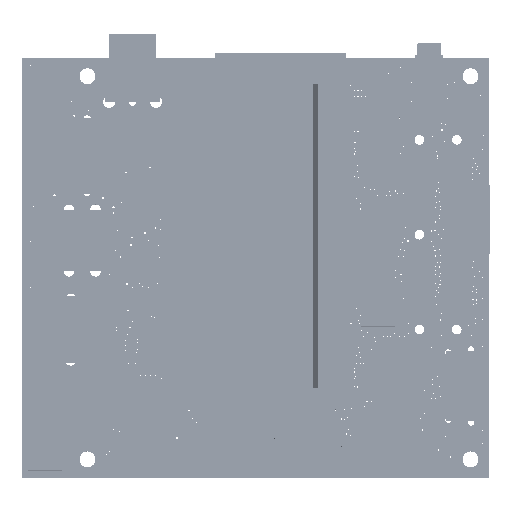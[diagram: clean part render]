
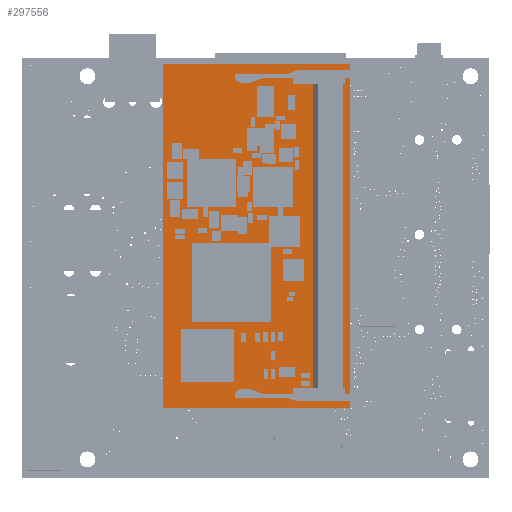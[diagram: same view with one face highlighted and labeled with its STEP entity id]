
A CAD part, top view. The second image highlights one B-rep face of the part: STEP entity #297556.
In plain terms, the highlighted planar face has unit normal (0, 0, 1).
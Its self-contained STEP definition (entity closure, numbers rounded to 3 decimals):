
#60196 = CARTESIAN_POINT ( 'NONE',  ( 30.226, 88.666, 5.575 ) ) ;
#61365 = CARTESIAN_POINT ( 'NONE',  ( 70.226, 88.666, 5.575 ) ) ;
#61682 = DIRECTION ( 'NONE',  ( -1., 0., 0. ) ) ;
#61684 = VECTOR ( 'NONE', #61682, 1000. ) ;
#61688 = CARTESIAN_POINT ( 'NONE',  ( 70.226, 88.666, 5.575 ) ) ;
#61690 = LINE ( 'NONE', #61688, #61684 ) ;
#62104 = DIRECTION ( 'NONE',  ( 0., -1., 0. ) ) ;
#62106 = VECTOR ( 'NONE', #62104, 1000. ) ;
#62107 = CARTESIAN_POINT ( 'NONE',  ( 30.226, 88.666, 5.575 ) ) ;
#62108 = LINE ( 'NONE', #62107, #62106 ) ;
#62411 = CARTESIAN_POINT ( 'NONE',  ( 70.226, 14.966, 5.575 ) ) ;
#62578 = CARTESIAN_POINT ( 'NONE',  ( 30.226, 14.966, 5.575 ) ) ;
#62629 = DIRECTION ( 'NONE',  ( 1., 0., 0. ) ) ;
#62631 = VECTOR ( 'NONE', #62629, 1000. ) ;
#62635 = CARTESIAN_POINT ( 'NONE',  ( 30.226, 14.966, 5.575 ) ) ;
#62639 = LINE ( 'NONE', #62635, #62631 ) ;
#62973 = DIRECTION ( 'NONE',  ( 0., 1., 0. ) ) ;
#62975 = VECTOR ( 'NONE', #62973, 1000. ) ;
#62976 = CARTESIAN_POINT ( 'NONE',  ( 70.226, 14.966, 5.575 ) ) ;
#63017 = LINE ( 'NONE', #62976, #62975 ) ;
#63159 = AXIS2_PLACEMENT_3D ( 'NONE', #63371, #63368, #63365 ) ;
#63365 = DIRECTION ( 'NONE',  ( 1., 0., 0. ) ) ;
#63368 = DIRECTION ( 'NONE',  ( 0., 0., 1. ) ) ;
#63371 = CARTESIAN_POINT ( 'NONE',  ( 30.226, 88.666, 5.575 ) ) ;
#63393 = PLANE ( 'NONE',  #63159 ) ;
#63401 = FACE_OUTER_BOUND ( 'NONE', #297424, .T. ) ;
#296701 = VERTEX_POINT ( 'NONE', #60196 ) ;
#297075 = VERTEX_POINT ( 'NONE', #61365 ) ;
#297133 = EDGE_CURVE ( 'NONE', #297075, #296701, #61690, .T. ) ;
#297248 = EDGE_CURVE ( 'NONE', #296701, #297289, #62108, .T. ) ;
#297267 = VERTEX_POINT ( 'NONE', #62411 ) ;
#297289 = VERTEX_POINT ( 'NONE', #62578 ) ;
#297368 = EDGE_CURVE ( 'NONE', #297289, #297267, #62639, .T. ) ;
#297424 = EDGE_LOOP ( 'NONE', ( #297788, #297675, #297572, #297988 ) ) ;
#297435 = EDGE_CURVE ( 'NONE', #297267, #297075, #63017, .T. ) ;
#297556 = ADVANCED_FACE ( 'NONE', ( #63401 ), #63393, .T. ) ;
#297572 = ORIENTED_EDGE ( 'NONE', *, *, #297368, .T. ) ;
#297675 = ORIENTED_EDGE ( 'NONE', *, *, #297248, .T. ) ;
#297788 = ORIENTED_EDGE ( 'NONE', *, *, #297133, .T. ) ;
#297988 = ORIENTED_EDGE ( 'NONE', *, *, #297435, .T. ) ;
